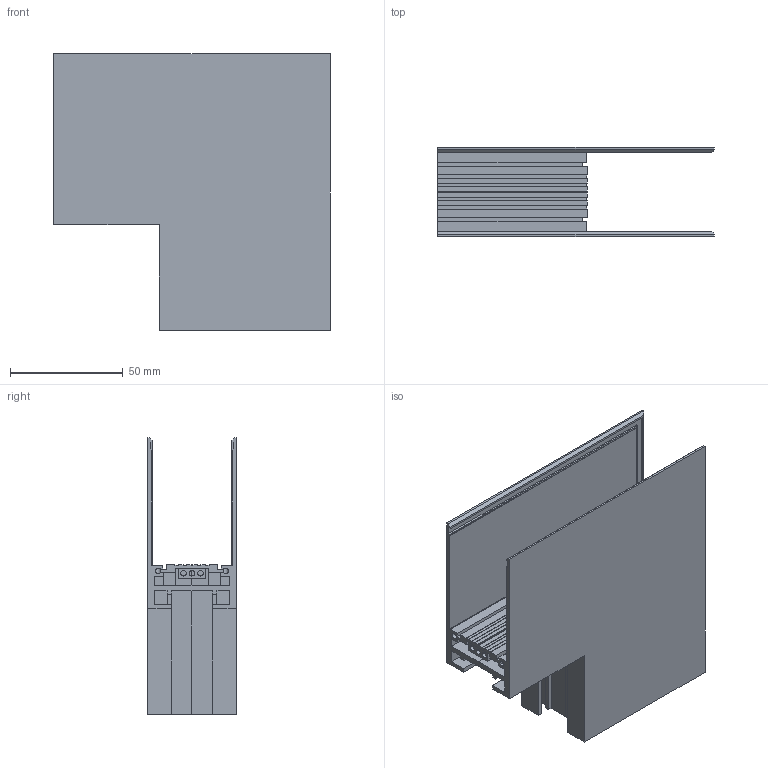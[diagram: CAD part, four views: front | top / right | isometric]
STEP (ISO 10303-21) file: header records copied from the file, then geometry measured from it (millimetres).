
FILE_DESCRIPTION(/* description */ (''),/* implementation_level */ '2;1');
FILE_NAME(/* name */ 'C:\Users\Franco Sartori E\Documents\FARO\DUPLICADO\Modelos\01_Digitalizados\PRIORIZACION 2D\1_NESO\03_Publicación\5020211302, 5020211302D_exC_NESO_T - Vista 3D - Export.stp',/* time_stamp */ '2021-01-21T10:26:02+01:00',/* author */ ('Franco Sartori E'),/* organization */ (''),/* preprocessor_version */ 'ST-DEVELOPER v18.1',/* originating_system */ 'AutoCAD Mechanical',/* authorisation */ '');
FILE_SCHEMA (('AUTOMOTIVE_DESIGN { 1 0 10303 214 3 1 1 }'));
Length unit declared in the file: millimetre
Products named in the file (2): Product; 5020211302_ 5020211302D - LAMP-513899-Export
Assembly tree (1 placements, depth 2):
  Product
    5020211302_ 5020211302D - LAMP-513899-Export
Bounding box: 123 x 39.4 x 123 mm (x, y, z)
Volume: 76913.6 mm3; surface area: 79634 mm2
Topology: 5 solids, 5 shells, 192 faces, 538 edges, 356 vertices
Faces by surface type: plane 176, cylinder 16
Entity records: 6140 total; most frequent: CARTESIAN_POINT 1089, ORIENTED_EDGE 1076, DIRECTION 960, EDGE_CURVE 538, LINE 506, VECTOR 506, VERTEX_POINT 356, AXIS2_PLACEMENT_3D 227
